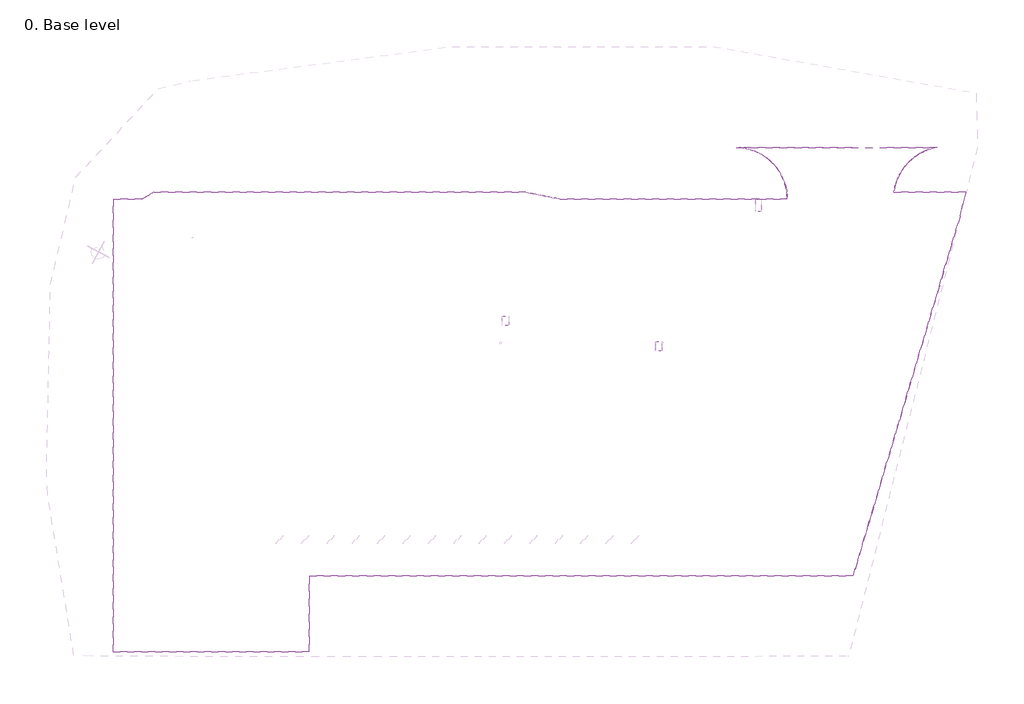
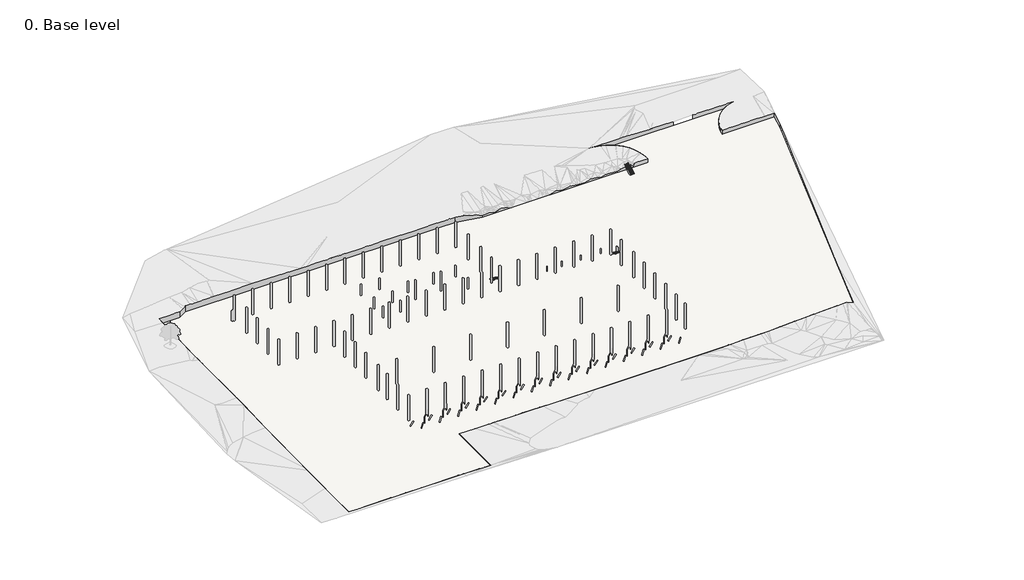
# One storey, part 1 of 3: 3 stair flights, 1 proxy, 1 slab.
"""IFC4 building model written with IfcOpenShell, lengths in millimetres."""

from ifc_helpers import new_model, si_unit, point, frame, frame_2d, origin, place, context, project, spatial, polyline, circle_curve, trimmed, segment, composite_curve, outline, extrude, triangles, transform, mapped, element, save
from components import stair_flight_50mm_tread_13mm_riser_5d985fe5, stair_flight_50mm_tread_13mm_riser_b122b964, stair_flight_50mm_tread_13mm_riser_a6df468b

model = new_model("IFC4")

# Units and contexts
model_context = context("Model", 3, world=origin())
ifc_project = project(units=[si_unit("LENGTHUNIT", "METRE", prefix="MILLI")], contexts=[model_context])

# Site, building, storey
site = spatial("IfcSite", under=ifc_project)
building = spatial("IfcBuilding", under=site)
storey = spatial("IfcBuildingStorey", under=building, Name="0. Base level", Elevation=0.0)

# Proxy
placement = place(None, origin())
element("IfcBuildingElementProxy", 1, Name="Building Element Proxy", at=placement, inside=storey, context=model_context, shape_type="Tessellation", body=[
    triangles([(1819.2808136, 57834.4419434, 42355.0426025), (1819.2808136, 57834.4419434, 43999.9980103), (1818.4890015, 57834.4419434, 42355.0426025), (1818.4890015, 57834.4419434, 43999.9980103), (1792.7232777, 57834.4419434, 42355.0426025), (1792.7232777, 57834.4419434, 43999.9980103), (-4880.4980301, 57834.4419434, 42355.0426025), (-4880.4980301, 57834.4419434, 43999.9980103), (-5161.4151855, 57834.4419434, 42355.0426025), (-5161.4151855, 57834.4419434, 43999.9980103), (-5424.3200684, 57834.4419434, 42355.0426025), (-5424.3200684, 57834.4419434, 43999.9980103), (-5434.8014053, 57834.4419434, 42355.0426025), (-5434.8014053, 57834.4419434, 43999.9980103), (-5669.4126663, 57834.4419434, 42355.0426025), (-5669.4126663, 57834.4419434, 44015.062207), (-13373.8336761, 57834.4419434, 42355.0426025), (-13373.8336761, 57834.4419434, 44268.8699707), (-14578.3136444, 57834.4419434, 42355.0426025), (-14578.3136444, 57834.4419434, 44270.0466431), (-15394.8917084, 57834.4419434, 42355.0426025), (-15394.8917084, 57834.4419434, 44272.2418579), (-15904.9919678, 57834.4419434, 42355.0426025), (-15904.9919678, 57834.4419434, 44283.8458008), (-19234.5771057, 57834.4419434, 42355.0426025), (-19234.5771057, 57834.4419434, 44297.6170532), (-25468.7314636, 57834.4419434, 42355.0426025), (-25468.7314636, 57834.4419434, 44352.2881348), (-24358.0271667, 57757.986145, 42355.0426025), (-24358.0271667, 57757.986145, 44343.6979614), (-23258.7500793, 57581.6480713, 42355.0426025), (-23258.7500793, 57581.6480713, 44336.7123413), (-22179.8601196, 57306.8741455, 42355.0426025), (-22179.8601196, 57306.8741455, 44331.3824341), (-21130.1520996, 56935.8967896, 42355.0426025), (-21130.1520996, 56935.8967896, 44327.7593994), (-20699.110968, 56738.1925781, 42355.0426025), (-20699.110968, 56738.1925781, 44326.9547974), (-20118.1906128, 56471.7437256, 42355.0426025), (-20118.1906128, 56471.7437256, 44330.2104126), (-19152.2228302, 55918.1961182, 42355.0426025), (-19152.2228302, 55918.1961182, 44337.9680786), (-18421.4813873, 55406.7157104, 42355.0426025), (-18421.4813873, 55406.7157104, 44345.8094604), (-18240.1250153, 55279.7746216, 42355.0426025), (-18240.1250153, 55279.7746216, 44341.9306274), (-18217.6449921, 55260.8036865, 42355.0426025), (-18217.6449921, 55260.8036865, 44341.4562378), (-17666.3146912, 54795.4599976, 42355.0426025), (-17666.3146912, 54795.4599976, 44351.1114624), (-17389.3339233, 54561.6789185, 42355.0426025), (-17389.3339233, 54561.6789185, 44356.8459961), (-16823.6045013, 53989.1789795, 42355.0426025), (-16823.6045013, 53989.1789795, 44370.9986206), (-16606.7875031, 53769.7644653, 42355.0426025), (-16606.7875031, 53769.7644653, 44363.1990967), (-15898.8655975, 52910.491333, 42355.0426025), (-15898.8655975, 52910.491333, 44337.3076538), (-15496.743631, 52321.1877686, 42355.0426025), (-15496.743631, 52321.1877686, 44322.2946167), (-15271.3411102, 51990.8590942, 42355.0426025), (-15271.3411102, 51990.8590942, 44288.4315674), (-14729.3288452, 51018.3742676, 42355.0426025), (-14729.3288452, 51018.3742676, 44196.5534546), (-14277.2494629, 50000.9619507, 42355.0426025), (-14277.2494629, 50000.9619507, 44107.8100342), (-13983.0860229, 49135.9821899, 42355.0426025), (-13983.0860229, 49135.9821899, 44038.1538208), (-13968.1497253, 49092.0639404, 42355.0426025), (-13968.1497253, 49092.0639404, 44043.2186279), (-13941.8699341, 49014.7849365, 42355.0426025), (-13941.8699341, 49014.7849365, 44048.1485596), (-13918.7887848, 48946.9146606, 42355.0426025), (-13918.7887848, 48946.9146606, 44027.35448), (-13896.1390045, 48853.3389771, 42355.0426025), (-13896.1390045, 48853.3389771, 43999.9980103), (-13884.8071381, 48806.52323, 42355.0426025), (-13884.8071381, 48806.52323, 43999.9980103), (-13862.7642975, 48715.459021, 42355.0426025), (-13862.7642975, 48715.459021, 43999.9980103), (-13656.8687256, 47864.8318726, 42355.0426025), (-13656.8687256, 47864.8318726, 43999.9980103), (-13493.6263641, 46763.5316528, 42355.0426025), (-13493.6263641, 46763.5316528, 43999.9980103), (-13430.3918518, 45651.9994995, 42355.0426025), (-13430.3918518, 45651.9994995, 43999.9980103), (-17248.7564575, 45651.9994995, 42355.0426025), (-17248.7564575, 45651.9994995, 43999.9980103), (-17916.6389465, 45651.9994995, 42355.0426025), (-17916.6389465, 45651.9994995, 43999.9980103), (-17991.3029938, 45651.9994995, 42355.0426025), (-17991.3029938, 45651.9994995, 43541.9980591), (-18075.9943359, 45651.9994995, 42355.0426025), (-18075.9943359, 45651.9994995, 43248.5648071), (-18152.6280304, 45651.9994995, 42355.0426025), (-18152.6280304, 45651.9994995, 43065.1620483), (-18175.5359344, 45651.9994995, 42355.0426025), (-18175.5359344, 45651.9994995, 42999.998584), (-18231.7673859, 45651.9994995, 42355.0426025), (-18231.7673859, 45651.9994995, 43055.4603149), (-18998.1764191, 45651.9994995, 42355.0426025), (-18998.1764191, 45651.9994995, 43923.1189819), (-19500.7376038, 45651.9994995, 42355.0426025), (-19500.7376038, 45651.9994995, 43915.8915161), (-21873.0532654, 45651.9994995, 42355.0426025), (-21873.0532654, 45651.9994995, 43371.9898315), (-22411.8506104, 45651.9994995, 42355.0426025), (-22411.8506104, 45651.9994995, 43425.8237549), (-23315.3396484, 45651.9994995, 42355.0426025), (-23315.3396484, 45651.9994995, 42999.998584), (-23507.7488342, 45651.9994995, 42355.0426025), (-23507.7488342, 45651.9994995, 42999.998584), (-23610.0751465, 45651.9994995, 42355.0426025), (-23610.0751465, 45651.9994995, 42999.998584), (-27089.6488037, 45651.9994995, 42355.0426025), (-27089.6488037, 45651.9994995, 43455.2219604), (-28731.664856, 45651.9994995, 42355.0426025), (-28731.664856, 45651.9994995, 42999.998584), (-28807.4741821, 45651.9994995, 42355.0426025), (-28807.4741821, 45651.9994995, 42999.998584), (-28981.9077209, 45651.9994995, 42355.0426025), (-28981.9077209, 45651.9994995, 42999.998584), (-31801.3960876, 45651.9994995, 42355.0426025), (-31801.3960876, 45651.9994995, 43467.3793579), (-34172.4676392, 45651.9994995, 42355.0426025), (-34172.4676392, 45651.9994995, 42999.998584), (-36201.8205139, 45651.9994995, 42355.0426025), (-36201.8205139, 45651.9994995, 42952.6247314), (-36272.0999451, 45651.9994995, 42355.0426025), (-36272.0999451, 45651.9994995, 42948.4435913), (-38831.7762634, 45651.9994995, 42355.0426025), (-38831.7762634, 45651.9994995, 43362.9485229), (-41347.141333, 45651.9994995, 42355.0426025), (-41347.141333, 45651.9994995, 42941.7695801), (-41519.4936035, 45651.9994995, 42355.0426025), (-41519.4936035, 45651.9994995, 42922.0638062), (-43152.1427856, 45651.9994995, 42355.0426025), (-43152.1427856, 45651.9994995, 43304.8869507), (-45320.6290283, 45651.9994995, 42355.0426025), (-45320.6290283, 45651.9994995, 42657.3450806), (-45934.2334351, 45651.9994995, 42355.0426025), (-45934.2334351, 45651.9994995, 42500.0011963), (-46435.681897, 45651.9994995, 42355.0426025), (-46435.681897, 45651.9994995, 42500.0011963), (-47382.1590088, 45651.9994995, 42355.0426025), (-47382.1590088, 45651.9994995, 42500.0011963), (-48687.1723755, 45651.9994995, 42355.0426025), (-48687.1723755, 45651.9994995, 42500.0011963), (-51268.7450317, 45651.9994995, 42355.0426025), (-51268.7450317, 45651.9994995, 42500.0011963), (-51422.3077515, 45651.9994995, 42355.0426025), (-51422.3077515, 45651.9994995, 42500.0011963), (-51465.6167358, 45651.9994995, 42355.0426025), (-51465.6167358, 45651.9994995, 42500.0011963), (-51750.515625, 45651.9994995, 42355.0426025), (-51750.515625, 45651.9994995, 42500.0011963), (-52353.9160034, 45651.9994995, 42355.0426025), (-52353.9160034, 45651.9994995, 42500.0011963), (-57807.8528687, 45651.9994995, 42355.0426025), (-57807.8528687, 45651.9994995, 42500.0011963), (-59781.127771, 45651.9994995, 42355.0426025), (-59781.127771, 45651.9994995, 43311.9981445), (-61172.6428345, 45651.9994995, 42355.0426025), (-61172.6428345, 45651.9994995, 43686.1473999), (-61949.6093628, 45651.9994995, 42355.0426025), (-61949.6093628, 45651.9994995, 43309.5564331), (-63065.1831299, 45651.9994995, 42355.0426025), (-63065.1831299, 45651.9994995, 42934.6490845), (-63821.7927612, 45651.9994995, 42355.0426025), (-63821.7927612, 45651.9994995, 42999.998584), (-64911.9634277, 45651.9994995, 42355.0426025), (-64911.9634277, 45651.9994995, 43314.3096313), (-65750.3494629, 45651.9994995, 42355.0426025), (-65750.3494629, 45651.9994995, 43313.4073608), (-66583.9311401, 45651.9994995, 42355.0426025), (-66583.9311401, 45651.9994995, 43312.5050903), (-67100.592627, 45651.9994995, 42355.0426025), (-67100.592627, 45651.9994995, 43381.803186), (-67921.5053101, 45816.7661865, 42355.0426025), (-67921.5053101, 45816.7661865, 43500.0006226), (-68998.7186279, 46032.9762451, 42355.0426025), (-68998.7186279, 46032.9762451, 43883.6469727), (-70591.2446777, 46352.6125488, 42355.0426025), (-70591.2446777, 46352.6125488, 43915.4636353), (-70948.1345215, 46424.2453857, 42355.0426025), (-70948.1345215, 46424.2453857, 43999.9980103), (-72635.6175659, 46762.9409912, 42355.0426025), (-72635.6175659, 46762.9409912, 44488.1217041), (-72771.3581177, 46790.1858398, 42355.0426025), (-72771.3581177, 46790.1858398, 44500.0000488), (-75143.3714722, 47266.27771, 42355.0426025), (-75143.3714722, 47266.27771, 44500.0000488), (-76557.8572266, 47266.27771, 42355.0426025), (-76557.8572266, 47266.27771, 44500.0000488), (-76997.142041, 47266.27771, 42355.0426025), (-76997.142041, 47266.27771, 44500.0000488), (-77538.606665, 47266.27771, 42355.0426025), (-77538.606665, 47266.27771, 44500.0000488), (-77719.8095581, 47266.27771, 42355.0426025), (-77719.8095581, 47266.27771, 44500.0000488), (-77747.1381226, 47266.27771, 42355.0426025), (-77747.1381226, 47266.27771, 44500.0000488), (-77774.7596924, 47266.27771, 42355.0426025), (-77774.7596924, 47266.27771, 44500.0000488), (-78600.4116211, 47266.27771, 42355.0426025), (-78600.4116211, 47266.27771, 44500.0000488), (-80232.3492188, 47266.27771, 42355.0426025), (-80232.3492188, 47266.27771, 44500.0000488), (-81791.5470703, 47266.27771, 42355.0426025), (-81791.5470703, 47266.27771, 44500.0000488), (-89811.1970947, 47266.27771, 42355.0426025), (-89811.1970947, 47266.27771, 44500.0000488), (-90440.6098389, 47266.27771, 42355.0426025), (-90440.6098389, 47266.27771, 44500.0000488), (-99050.3540771, 47266.27771, 42355.0426025), (-99050.3540771, 47266.27771, 44500.0000488), (-102659.7151611, 47266.27771, 42355.0426025), (-102659.7151611, 47266.27771, 44500.0000488), (-103939.3393799, 47266.27771, 42355.0426025), (-103939.3393799, 47266.27771, 44500.0000488), (-105984.1447998, 47266.27771, 42355.0426025), (-105984.1447998, 47266.27771, 44500.0000488), (-110632.568042, 47266.27771, 42355.0426025), (-110632.568042, 47266.27771, 44500.0000488), (-111252.5581055, 47266.27771, 42355.0426025), (-111252.5581055, 47266.27771, 44489.9774048), (-112539.8841797, 47266.27771, 42355.0426025), (-112539.8841797, 47266.27771, 44481.7081421), (-115715.7926514, 47266.27771, 42355.0426025), (-115715.7926514, 47266.27771, 44492.274939), (-116011.1420654, 47266.27771, 42355.0426025), (-116011.1420654, 47266.27771, 44500.0000488), (-116081.7796143, 47266.27771, 42355.0426025), (-116081.7796143, 47266.27771, 44500.0000488), (-116852.7744141, 47266.27771, 42355.0426025), (-116852.7744141, 47266.27771, 44500.0000488), (-120607.0010742, 47266.27771, 42355.0426025), (-120607.0010742, 47266.27771, 44500.0000488), (-121419.8537842, 47266.27771, 42355.0426025), (-121419.8537842, 47266.27771, 44500.0000488), (-123264.9690674, 47266.27771, 42355.0426025), (-123264.9690674, 47266.27771, 44515.2084229), (-125287.6735107, 47266.27771, 42355.0426025), (-125287.6735107, 47266.27771, 44551.9503662), (-140892.4140381, 47266.27771, 42355.0426025), (-140892.4140381, 47266.27771, 44711.656897), (-148138.1578125, 47266.27771, 42355.0426025), (-148138.1578125, 47266.27771, 44761.1934082), (-148520.8228271, 47266.27771, 42355.0426025), (-148520.8228271, 47266.27771, 44762.2910156), (-153680.0241943, 47266.27771, 42355.0426025), (-153680.0241943, 47266.27771, 44792.5589355), (-158732.0600098, 47266.27771, 42355.0426025), (-158732.0600098, 47266.27771, 44655.1022095), (-159739.1985352, 47266.27771, 42355.0426025), (-159739.1985352, 47266.27771, 44651.2698853), (-160539.689209, 47266.27771, 42355.0426025), (-160539.689209, 47266.27771, 44661.3297363), (-161454.2380371, 47266.27771, 42355.0426025), (-161454.2380371, 47266.27771, 44672.8220581), (-161819.3506348, 47266.27771, 42355.0426025), (-161819.3506348, 47266.27771, 44669.2780884), (-162872.8119141, 47266.27771, 42355.0426025), (-162872.8119141, 47266.27771, 44676.2497559), (-163270.8155273, 47036.4917358, 42355.0426025), (-163270.8155273, 47036.4917358, 44665.9573608), (-164166.2027344, 46519.5372437, 42355.0426025), (-164166.2027344, 46519.5372437, 44657.8973877), (-165668.8272949, 45651.9994995, 42355.0426025), (-165668.8272949, 45651.9994995, 44617.3603271)], [[1, 4, 2], [1, 3, 4], [3, 6, 4], [3, 5, 6], [5, 8, 6], [5, 7, 8], [7, 10, 8], [7, 9, 10], [9, 12, 10], [9, 11, 12], [11, 14, 12], [11, 13, 14], [13, 16, 14], [13, 15, 16], [15, 18, 16], [15, 17, 18], [17, 20, 18], [17, 19, 20], [19, 22, 20], [19, 21, 22], [21, 24, 22], [21, 23, 24], [23, 26, 24], [23, 25, 26], [25, 28, 26], [25, 27, 28], [27, 30, 28], [27, 29, 30], [29, 32, 30], [29, 31, 32], [31, 34, 32], [31, 33, 34], [33, 36, 34], [33, 35, 36], [35, 38, 36], [35, 37, 38], [37, 40, 38], [37, 39, 40], [39, 42, 40], [39, 41, 42], [41, 44, 42], [41, 43, 44], [43, 46, 44], [43, 45, 46], [45, 48, 46], [45, 47, 48], [47, 50, 48], [47, 49, 50], [49, 52, 50], [49, 51, 52], [51, 54, 52], [51, 53, 54], [53, 56, 54], [53, 55, 56], [55, 58, 56], [55, 57, 58], [57, 60, 58], [57, 59, 60], [59, 62, 60], [59, 61, 62], [61, 64, 62], [61, 63, 64], [63, 66, 64], [63, 65, 66], [65, 68, 66], [65, 67, 68], [67, 70, 68], [67, 69, 70], [69, 72, 70], [69, 71, 72], [71, 74, 72], [71, 73, 74], [73, 76, 74], [73, 75, 76], [75, 78, 76], [75, 77, 78], [77, 80, 78], [77, 79, 80], [79, 82, 80], [79, 81, 82], [81, 84, 82], [81, 83, 84], [83, 86, 84], [83, 85, 86], [85, 88, 86], [85, 87, 88], [87, 90, 88], [87, 89, 90], [89, 92, 90], [89, 91, 92], [91, 94, 92], [91, 93, 94], [93, 96, 94], [93, 95, 96], [95, 98, 96], [95, 97, 98], [97, 100, 98], [97, 99, 100], [99, 102, 100], [99, 101, 102], [101, 104, 102], [101, 103, 104], [103, 106, 104], [103, 105, 106], [105, 108, 106], [105, 107, 108], [107, 110, 108], [107, 109, 110], [109, 112, 110], [109, 111, 112], [111, 114, 112], [111, 113, 114], [113, 116, 114], [113, 115, 116], [115, 118, 116], [115, 117, 118], [117, 120, 118], [117, 119, 120], [119, 122, 120], [119, 121, 122], [121, 124, 122], [121, 123, 124], [123, 126, 124], [123, 125, 126], [125, 128, 126], [125, 127, 128], [127, 130, 128], [127, 129, 130], [129, 132, 130], [129, 131, 132], [131, 134, 132], [131, 133, 134], [133, 136, 134], [133, 135, 136], [135, 138, 136], [135, 137, 138], [137, 140, 138], [137, 139, 140], [139, 142, 140], [139, 141, 142], [141, 144, 142], [141, 143, 144], [143, 146, 144], [143, 145, 146], [145, 148, 146], [145, 147, 148], [147, 150, 148], [147, 149, 150], [149, 152, 150], [149, 151, 152], [151, 154, 152], [151, 153, 154], [153, 156, 154], [153, 155, 156], [155, 158, 156], [155, 157, 158], [157, 160, 158], [157, 159, 160], [159, 162, 160], [159, 161, 162], [161, 164, 162], [161, 163, 164], [163, 166, 164], [163, 165, 166], [165, 168, 166], [165, 167, 168], [167, 170, 168], [167, 169, 170], [169, 172, 170], [169, 171, 172], [171, 174, 172], [171, 173, 174], [173, 176, 174], [173, 175, 176], [175, 178, 176], [175, 177, 178], [177, 180, 178], [177, 179, 180], [179, 182, 180], [179, 181, 182], [181, 184, 182], [181, 183, 184], [183, 186, 184], [183, 185, 186], [185, 188, 186], [185, 187, 188], [187, 190, 188], [187, 189, 190], [189, 192, 190], [189, 191, 192], [191, 194, 192], [191, 193, 194], [193, 196, 194], [193, 195, 196], [195, 198, 196], [195, 197, 198], [197, 200, 198], [197, 199, 200], [199, 202, 200], [199, 201, 202], [201, 204, 202], [201, 203, 204], [203, 206, 204], [203, 205, 206], [205, 208, 206], [205, 207, 208], [207, 210, 208], [207, 209, 210], [209, 212, 210], [209, 211, 212], [211, 214, 212], [211, 213, 214], [213, 216, 214], [213, 215, 216], [215, 218, 216], [215, 217, 218], [217, 220, 218], [217, 219, 220], [219, 222, 220], [219, 221, 222], [221, 224, 222], [221, 223, 224], [223, 226, 224], [223, 225, 226], [225, 228, 226], [225, 227, 228], [227, 230, 228], [227, 229, 230], [229, 232, 230], [229, 231, 232], [231, 234, 232], [231, 233, 234], [233, 236, 234], [233, 235, 236], [235, 238, 236], [235, 237, 238], [237, 240, 238], [237, 239, 240], [239, 242, 240], [239, 241, 242], [241, 244, 242], [241, 243, 244], [243, 246, 244], [243, 245, 246], [245, 248, 246], [245, 247, 248], [247, 250, 248], [247, 249, 250], [249, 252, 250], [249, 251, 252], [251, 254, 252], [251, 253, 254], [253, 256, 254], [253, 255, 256], [255, 258, 256], [255, 257, 258], [257, 260, 258], [257, 259, 260], [259, 262, 260], [259, 261, 262], [261, 264, 262], [261, 263, 264], [263, 266, 264], [263, 265, 266], [265, 268, 266], [265, 267, 268], [267, 270, 268], [267, 269, 270]], closed=False),
    triangles([(-165668.8272949, 45651.9994995, 42355.0426025), (-165668.8272949, 45651.9994995, 44617.3603271), (-166710.2334961, 45651.9994995, 42355.0426025), (-166710.2334961, 45651.9994995, 44621.8112183), (-169416.1706543, 45651.9994995, 42355.0426025), (-169416.1706543, 45651.9994995, 44637.0242432), (-172437.4001953, 45651.9994995, 42355.0426025), (-172437.4001953, 45651.9994995, 44632.4384766), (-172437.4001953, 43484.4806396, 42355.0426025), (-172437.4001953, 43484.4806396, 44500.0000488), (-172437.4001953, 29970.259021, 42355.0426025), (-172437.4001953, 29970.259021, 44146.8867188), (-172437.4001953, 26467.5100342, 42355.0426025), (-172437.4001953, 26467.5100342, 44081.662793), (-172437.4001953, 25373.8442322, 42355.0426025), (-172437.4001953, 25373.8442322, 44064.7196411), (-172437.4001953, 23266.1752075, 42355.0426025), (-172437.4001953, 23266.1752075, 43999.9980103), (-172437.4001953, 22824.0998657, 42355.0426025), (-172437.4001953, 22824.0998657, 43999.9980103), (-172437.4001953, 22733.2519226, 42355.0426025), (-172437.4001953, 22733.2519226, 43999.9980103), (-172437.4001953, 22265.761853, 42355.0426025), (-172437.4001953, 22265.761853, 43999.9980103), (-172437.4001953, 22068.5018005, 42355.0426025), (-172437.4001953, 22068.5018005, 43999.9980103), (-172437.4001953, 21067.3815125, 42355.0426025), (-172437.4001953, 21067.3815125, 43999.9980103), (-172437.4001953, 20908.6098083, 42355.0426025), (-172437.4001953, 20908.6098083, 43999.9980103), (-172437.4001953, 12443.5253448, 42355.0426025), (-172437.4001953, 12443.5253448, 43999.9980103), (-172437.4001953, 12055.1164948, 42355.0426025), (-172437.4001953, 12055.1164948, 43999.9980103), (-172437.4001953, 6954.251683, 42355.0426025), (-172437.4001953, 6954.251683, 43999.9980103), (-172437.4001953, 6151.6216049, 42355.0426025), (-172437.4001953, 6151.6216049, 43999.9980103), (-172437.4001953, 5701.0845703, 42355.0426025), (-172437.4001953, 5701.0845703, 43999.9980103), (-172437.4001953, 2565.1230789, 42355.0426025), (-172437.4001953, 2565.1230789, 43999.9980103), (-172437.4001953, 2219.8117435, 42355.0426025), (-172437.4001953, 2219.8117435, 43999.9980103), (-172437.4001953, 1859.9765854, 42355.0426025), (-172437.4001953, 1859.9765854, 43999.9980103), (-172437.4001953, -2036.8585213, 42355.0426025), (-172437.4001953, -2036.8585213, 43876.298584), (-172437.4001953, -14339.6607697, 42355.0426025), (-172437.4001953, -14339.6607697, 43500.0006226), (-172437.4001953, -14343.6384338, 42355.0426025), (-172437.4001953, -14343.6384338, 43499.9215576), (-172437.4001953, -14349.7915466, 42355.0426025), (-172437.4001953, -14349.7915466, 43499.8424927), (-172437.4001953, -36755.7146118, 42355.0426025), (-172437.4001953, -36755.7146118, 43185.9593262), (-172437.4001953, -37981.3142212, 42355.0426025), (-172437.4001953, -37981.3142212, 43171.7229858), (-172437.4001953, -47941.6922974, 42355.0426025), (-172437.4001953, -47941.6922974, 42999.998584), (-172437.4001953, -48712.538269, 42355.0426025), (-172437.4001953, -48712.538269, 42999.998584), (-172437.4001953, -49523.5771362, 42355.0426025), (-172437.4001953, -49523.5771362, 42999.998584), (-172437.4001953, -51504.8934082, 42355.0426025), (-172437.4001953, -51504.8934082, 42999.998584), (-172437.4001953, -55508.0676636, 42355.0426025), (-172437.4001953, -55508.0676636, 42999.998584), (-172437.4001953, -58997.4732788, 42355.0426025), (-172437.4001953, -58997.4732788, 42999.998584), (-172437.4001953, -59835.8825684, 42355.0426025), (-172437.4001953, -59835.8825684, 42999.998584), (-172437.4001953, -61246.9871338, 42355.0426025), (-172437.4001953, -61246.9871338, 42999.998584), (-169065.2711426, -61246.9871338, 42355.0426025), (-169065.2711426, -61246.9871338, 42999.998584), (-167378.1555176, -61246.9871338, 42355.0426025), (-167378.1555176, -61246.9871338, 42999.998584), (-158731.0368164, -61246.9871338, 42355.0426025), (-158731.0368164, -61246.9871338, 42999.998584), (-158422.3858887, -61246.9871338, 42355.0426025), (-158422.3858887, -61246.9871338, 42999.998584), (-153766.3166016, -61246.9871338, 42355.0426025), (-153766.3166016, -61246.9871338, 42999.998584), (-153673.354834, -61246.9871338, 42355.0426025), (-153673.354834, -61246.9871338, 42999.998584), (-148611.1708008, -61246.9871338, 42355.0426025), (-148611.1708008, -61246.9871338, 42999.998584), (-148543.9656006, -61246.9871338, 42355.0426025), (-148543.9656006, -61246.9871338, 42999.998584), (-148130.7071045, -61246.9871338, 42355.0426025), (-148130.7071045, -61246.9871338, 42999.998584), (-136567.4594238, -61246.9871338, 42355.0426025), (-136567.4594238, -61246.9871338, 42999.998584), (-135808.6964355, -61246.9871338, 42355.0426025), (-135808.6964355, -61246.9871338, 42999.998584), (-135113.4365479, -61246.9871338, 42355.0426025), (-135113.4365479, -61246.9871338, 42999.998584), (-134764.3043701, -61246.9871338, 42355.0426025), (-134764.3043701, -61246.9871338, 42999.998584), (-129903.9126709, -61246.9871338, 42355.0426025), (-129903.9126709, -61246.9871338, 42894.0143555), (-128958.8354736, -61246.9871338, 42355.0426025), (-128958.8354736, -61246.9871338, 42872.3366089), (-128092.4046387, -61246.9871338, 42355.0426025), (-128092.4046387, -61246.9871338, 42854.3051514), (-126195.9157471, -61246.9871338, 42355.0426025), (-126195.9157471, -61246.9871338, 42816.1493408), (-126195.9157471, -60918.0351196, 42355.0426025), (-126195.9157471, -60918.0351196, 42813.8657593), (-126195.9157471, -60698.1555176, 42355.0426025), (-126195.9157471, -60698.1555176, 42813.2192871), (-126195.9157471, -60371.794043, 42355.0426025), (-126195.9157471, -60371.794043, 42815.7493652), (-126195.9157471, -43321.7417358, 42355.0426025), (-126195.9157471, -43321.7417358, 42866.2765137), (-120921.4935059, -43321.7417358, 42355.0426025), (-120921.4935059, -43321.7417358, 42751.2602783), (-116533.4171631, -43321.7417358, 42355.0426025), (-116533.4171631, -43321.7417358, 42739.5168091), (-115451.5669189, -43321.7417358, 42355.0426025), (-115451.5669189, -43321.7417358, 42723.6852173), (-115213.2279785, -43321.7417358, 42355.0426025), (-115213.2279785, -43321.7417358, 42720.6760986), (-114745.8611572, -43321.7417358, 42355.0426025), (-114745.8611572, -43321.7417358, 42716.9553955), (-113519.9824951, -43321.7417358, 42355.0426025), (-113519.9824951, -43321.7417358, 42708.4535889), (-107518.7302002, -43321.7417358, 42355.0426025), (-107518.7302002, -43321.7417358, 42692.1662109), (-105389.8740967, -43321.7417358, 42355.0426025), (-105389.8740967, -43321.7417358, 42712.9928467), (-99822.4185791, -43321.7417358, 42355.0426025), (-99822.4185791, -43321.7417358, 42672.9301758), (-98769.2084473, -43321.7417358, 42355.0426025), (-98769.2084473, -43321.7417358, 42668.1304688), (-91980.004248, -43321.7417358, 42355.0426025), (-91980.004248, -43321.7417358, 42594.2187012), (-91355.8469971, -43321.7417358, 42355.0426025), (-91355.8469971, -43321.7417358, 42590.8886719), (-91009.5146484, -43321.7417358, 42355.0426025), (-91009.5146484, -43321.7417358, 42587.7818848), (-88180.3478027, -43321.7417358, 42355.0426025), (-88180.3478027, -43321.7417358, 42569.7318237), (-86355.8545166, -43321.7417358, 42355.0426025), (-86355.8545166, -43321.7417358, 42559.6952271), (-85011.2296143, -43321.7417358, 42355.0426025), (-85011.2296143, -43321.7417358, 42556.509375), (-82003.3666992, -43321.7417358, 42355.0426025), (-82003.3666992, -43321.7417358, 42500.0011963), (-79252.3997314, -43321.7417358, 42355.0426025), (-79252.3997314, -43321.7417358, 42500.0011963), (-76828.5662842, -43321.7417358, 42355.0426025), (-76828.5662842, -43321.7417358, 42500.0011963), (-76074.947168, -43321.7417358, 42355.0426025), (-76074.947168, -43321.7417358, 42500.0011963), (-73621.873645, -43321.7417358, 42355.0426025), (-73621.873645, -43321.7417358, 42500.0011963), (-63029.9620239, -43321.7417358, 42355.0426025), (-63029.9620239, -43321.7417358, 42500.0011963), (-61306.4951294, -43321.7417358, 42355.0426025), (-61306.4951294, -43321.7417358, 42500.0011963), (-61260.3212036, -43321.7417358, 42355.0426025), (-61260.3212036, -43321.7417358, 42500.0011963), (-55979.2342529, -43321.7417358, 42355.0426025), (-55979.2342529, -43321.7417358, 42500.0011963), (-51065.5109253, -43321.7417358, 42355.0426025), (-51065.5109253, -43321.7417358, 42500.0011963), (-48148.9633667, -43321.7417358, 42355.0426025), (-48148.9633667, -43321.7417358, 42500.0011963), (-46639.8368774, -43321.7417358, 42355.0426025), (-46639.8368774, -43321.7417358, 42500.0011963), (-40954.4350708, -43321.7417358, 42355.0426025), (-40954.4350708, -43321.7417358, 42500.0011963), (-38399.8909973, -43321.7417358, 42355.0426025), (-38399.8909973, -43321.7417358, 42599.5672119), (-38051.7541077, -43321.7417358, 42355.0426025), (-38051.7541077, -43321.7417358, 42610.854895), (-33803.1785522, -43321.7417358, 42355.0426025), (-33803.1785522, -43321.7417358, 42759.3528076), (-31385.2935791, -43321.7417358, 42355.0426025), (-31385.2935791, -43321.7417358, 42754.7623901), (-28843.3789673, -43321.7417358, 42355.0426025), (-28843.3789673, -43321.7417358, 42755.5669922), (-28029.1054138, -43321.7417358, 42355.0426025), (-28029.1054138, -43321.7417358, 42761.8177734), (-26972.228064, -43321.7417358, 42355.0426025), (-26972.228064, -43321.7417358, 42786.2860474), (-25876.0531128, -43321.7417358, 42355.0426025), (-25876.0531128, -43321.7417358, 42824.5348755), (-25435.3567566, -43321.7417358, 42355.0426025), (-25435.3567566, -43321.7417358, 42834.4738037), (-21782.2216003, -43321.7417358, 42355.0426025), (-21782.2216003, -43321.7417358, 42999.998584), (-17025.4096252, -43321.7417358, 42355.0426025), (-17025.4096252, -43321.7417358, 43247.0625732), (-13191.9401276, -43321.7417358, 42355.0426025), (-13191.9401276, -43321.7417358, 43389.2027344), (-10952.8442413, -43321.7417358, 42355.0426025), (-10952.8442413, -43321.7417358, 43500.0006226), (-10657.2541443, -43321.7417358, 42355.0426025), (-10657.2541443, -43321.7417358, 43500.0006226), (-8967.5706528, -43321.7417358, 42355.0426025), (-8967.5706528, -43321.7417358, 43568.0894897), (-3152.4854828, -43321.7417358, 42355.0426025), (-3152.4854828, -43321.7417358, 43772.2770264), (-3043.3404007, -43321.7417358, 42355.0426025), (-3043.3404007, -43321.7417358, 43772.3328369), (-1436.6708828, -43321.7417358, 42355.0426025), (-1436.6708828, -43321.7417358, 43832.552417), (-34.8357348, -43321.7417358, 42355.0426025), (-34.8357348, -43321.7417358, 43862.4529175), (194.5065868, -43321.7417358, 42355.0426025), (194.5065868, -43321.7417358, 43616.7144287), (2031.8245262, -43321.7417358, 42355.0426025), (2031.8245262, -43321.7417358, 43072.1988281), (7574.9649582, -24672.3661194, 42355.0426025), (7574.9649582, -24672.3661194, 42785.6163208), (27282.2370483, 41630.9007568, 42355.0426025), (27282.2370483, 41630.9007568, 43731.5864868), (28579.0462646, 47247.9997559, 42355.0426025), (28579.0462646, 47247.9997559, 43831.9431519), (25479.5982422, 47247.9997559, 42355.0426025), (25479.5982422, 47247.9997559, 43999.9980103), (24565.6935608, 47247.9997559, 42355.0426025), (24565.6935608, 47247.9997559, 43999.9980103), (23416.0242004, 47247.9997559, 42355.0426025), (23416.0242004, 47247.9997559, 43999.9980103), (23194.9237427, 47247.9997559, 42355.0426025), (23194.9237427, 47247.9997559, 43999.9980103), (21774.6964783, 47247.9997559, 42355.0426025), (21774.6964783, 47247.9997559, 43999.9980103), (20774.5970581, 47247.9997559, 42355.0426025), (20774.5970581, 47247.9997559, 43999.9980103), (20473.3410278, 47247.9997559, 42355.0426025), (20473.3410278, 47247.9997559, 43999.9980103), (19009.2094666, 47247.9997559, 42355.0426025), (19009.2094666, 47247.9997559, 43999.9980103), (17863.4305664, 47247.9997559, 42355.0426025), (17863.4305664, 47247.9997559, 43999.9980103), (17012.8999237, 47247.9997559, 42355.0426025), (17012.8999237, 47247.9997559, 43999.9980103), (15616.2909851, 47247.9997559, 42355.0426025), (15616.2909851, 47247.9997559, 43999.9980103), (15099.1225525, 47247.9997559, 42355.0426025), (15099.1225525, 47247.9997559, 43999.9980103), (14049.9912415, 47247.9997559, 42355.0426025), (14049.9912415, 47247.9997559, 43999.9980103), (13156.9469147, 47247.9997559, 42355.0426025), (13156.9469147, 47247.9997559, 43999.9980103), (11654.3700256, 47247.9997559, 42355.0426025), (11654.3700256, 47247.9997559, 43999.9980103), (11833.0056335, 48283.108667, 42355.0426025), (11833.0056335, 48283.108667, 43999.9980103), (11921.0467712, 48619.3207031, 42355.0426025), (11921.0467712, 48619.3207031, 43999.9980103), (12099.0975311, 49299.2605957, 42355.0426025), (12099.0975311, 49299.2605957, 43999.9980103), (12269.2883057, 49778.3522827, 42355.0426025), (12269.2883057, 49778.3522827, 43999.9980103), (12450.7156036, 50289.0745972, 42355.0426025), (12450.7156036, 50289.0745972, 43999.9980103), (12885.3065186, 51245.3650635, 42355.0426025), (12885.3065186, 51245.3650635, 43999.9980103), (13063.7142334, 51562.9921875, 42355.0426025), (13063.7142334, 51562.9921875, 43999.9980103), (13399.71698, 52161.1975342, 42355.0426025), (13399.71698, 52161.1975342, 43999.9980103), (13701.8473755, 52605.6866821, 42355.0426025), (13701.8473755, 52605.6866821, 43999.9980103), (13990.2123322, 53029.9212524, 42355.0426025), (13990.2123322, 53029.9212524, 43999.9980103), (14652.5079529, 53845.2296265, 42355.0426025), (14652.5079529, 53845.2296265, 43999.9980103), (15273.9560669, 54489.4228638, 42355.0426025), (15273.9560669, 54489.4228638, 43999.9980103), (15381.7959961, 54601.2067383, 42355.0426025), (15381.7959961, 54601.2067383, 43999.9980103), (16063.4195068, 55196.8075928, 42355.0426025), (16063.4195068, 55196.8075928, 43999.9980103), (16172.7837616, 55292.3692017, 42355.0426025), (16172.7837616, 55292.3692017, 43999.9980103), (16503.5565948, 55535.0288086, 42355.0426025), (16503.5565948, 55535.0288086, 43999.9980103), (16803.3801544, 55754.9781738, 42355.0426025), (16803.3801544, 55754.9781738, 43999.9980103), (17019.7297394, 55913.6940674, 42355.0426025), (17019.7297394, 55913.6940674, 43999.9980103), (17916.487793, 56460.6792847, 42355.0426025), (17916.487793, 56460.6792847, 43999.9980103), (18277.794809, 56640.8078247, 42355.0426025), (18277.794809, 56640.8078247, 43999.9980103), (18549.9828461, 56776.5065186, 42355.0426025), (18549.9828461, 56776.5065186, 43999.9980103), (18856.5490173, 56929.3483521, 42355.0426025), (18856.5490173, 56929.3483521, 43999.9980103), (19300.7870178, 57105.3748169, 42355.0426025), (19300.7870178, 57105.3748169, 43999.9980103), (19833.0894104, 57316.3014771, 42355.0426025), (19833.0894104, 57316.3014771, 43999.9980103), (20839.0233582, 57618.7295288, 42355.0426025), (20839.0233582, 57618.7295288, 43999.9980103), (21867.0466553, 57834.4419434, 42355.0426025), (21867.0466553, 57834.4419434, 43999.9980103), (19558.8712646, 57834.4419434, 42355.0426025), (19558.8712646, 57834.4419434, 43999.9980103), (18974.4162415, 57834.4419434, 42355.0426025), (18974.4162415, 57834.4419434, 43999.9980103), (11305.3506317, 57834.4419434, 42355.0426025), (11305.3506317, 57834.4419434, 43999.9980103), (9750.6065781, 57834.4419434, 42355.0426025), (9750.6065781, 57834.4419434, 43999.9980103), (9155.6254532, 57834.4419434, 42355.0426025), (9155.6254532, 57834.4419434, 43999.9980103), (8558.8903656, 57834.4419434, 42355.0426025), (8558.8903656, 57834.4419434, 43999.9980103), (8282.5990906, 57834.4419434, 42355.0426025), (8282.5990906, 57834.4419434, 43999.9980103)], [[1, 4, 2], [1, 3, 4], [3, 6, 4], [3, 5, 6], [5, 8, 6], [5, 7, 8], [7, 10, 8], [7, 9, 10], [9, 12, 10], [9, 11, 12], [11, 14, 12], [11, 13, 14], [13, 16, 14], [13, 15, 16], [15, 18, 16], [15, 17, 18], [17, 20, 18], [17, 19, 20], [19, 22, 20], [19, 21, 22], [21, 24, 22], [21, 23, 24], [23, 26, 24], [23, 25, 26], [25, 28, 26], [25, 27, 28], [27, 30, 28], [27, 29, 30], [29, 32, 30], [29, 31, 32], [31, 34, 32], [31, 33, 34], [33, 36, 34], [33, 35, 36], [35, 38, 36], [35, 37, 38], [37, 40, 38], [37, 39, 40], [39, 42, 40], [39, 41, 42], [41, 44, 42], [41, 43, 44], [43, 46, 44], [43, 45, 46], [45, 48, 46], [45, 47, 48], [47, 50, 48], [47, 49, 50], [49, 52, 50], [49, 51, 52], [51, 54, 52], [51, 53, 54], [53, 56, 54], [53, 55, 56], [55, 58, 56], [55, 57, 58], [57, 60, 58], [57, 59, 60], [59, 62, 60], [59, 61, 62], [61, 64, 62], [61, 63, 64], [63, 66, 64], [63, 65, 66], [65, 68, 66], [65, 67, 68], [67, 70, 68], [67, 69, 70], [69, 72, 70], [69, 71, 72], [71, 74, 72], [71, 73, 74], [73, 76, 74], [73, 75, 76], [75, 78, 76], [75, 77, 78], [77, 80, 78], [77, 79, 80], [79, 82, 80], [79, 81, 82], [81, 84, 82], [81, 83, 84], [83, 86, 84], [83, 85, 86], [85, 88, 86], [85, 87, 88], [87, 90, 88], [87, 89, 90], [89, 92, 90], [89, 91, 92], [91, 94, 92], [91, 93, 94], [93, 96, 94], [93, 95, 96], [95, 98, 96], [95, 97, 98], [97, 100, 98], [97, 99, 100], [99, 102, 100], [99, 101, 102], [101, 104, 102], [101, 103, 104], [103, 106, 104], [103, 105, 106], [105, 108, 106], [105, 107, 108], [107, 110, 108], [107, 109, 110], [109, 112, 110], [109, 111, 112], [111, 114, 112], [111, 113, 114], [113, 116, 114], [113, 115, 116], [115, 118, 116], [115, 117, 118], [117, 120, 118], [117, 119, 120], [119, 122, 120], [119, 121, 122], [121, 124, 122], [121, 123, 124], [123, 126, 124], [123, 125, 126], [125, 128, 126], [125, 127, 128], [127, 130, 128], [127, 129, 130], [129, 132, 130], [129, 131, 132], [131, 134, 132], [131, 133, 134], [133, 136, 134], [133, 135, 136], [135, 138, 136], [135, 137, 138], [137, 140, 138], [137, 139, 140], [139, 142, 140], [139, 141, 142], [141, 144, 142], [141, 143, 144], [143, 146, 144], [143, 145, 146], [145, 148, 146], [145, 147, 148], [147, 150, 148], [147, 149, 150], [149, 152, 150], [149, 151, 152], [151, 154, 152], [151, 153, 154], [153, 156, 154], [153, 155, 156], [155, 158, 156], [155, 157, 158], [157, 160, 158], [157, 159, 160], [159, 162, 160], [159, 161, 162], [161, 164, 162], [161, 163, 164], [163, 166, 164], [163, 165, 166], [165, 168, 166], [165, 167, 168], [167, 170, 168], [167, 169, 170], [169, 172, 170], [169, 171, 172], [171, 174, 172], [171, 173, 174], [173, 176, 174], [173, 175, 176], [175, 178, 176], [175, 177, 178], [177, 180, 178], [177, 179, 180], [179, 182, 180], [179, 181, 182], [181, 184, 182], [181, 183, 184], [183, 186, 184], [183, 185, 186], [185, 188, 186], [185, 187, 188], [187, 190, 188], [187, 189, 190], [189, 192, 190], [189, 191, 192], [191, 194, 192], [191, 193, 194], [193, 196, 194], [193, 195, 196], [195, 198, 196], [195, 197, 198], [197, 200, 198], [197, 199, 200], [199, 202, 200], [199, 201, 202], [201, 204, 202], [201, 203, 204], [203, 206, 204], [203, 205, 206], [205, 208, 206], [205, 207, 208], [207, 210, 208], [207, 209, 210], [209, 212, 210], [209, 211, 212], [211, 214, 212], [211, 213, 214], [213, 216, 214], [213, 215, 216], [215, 218, 216], [215, 217, 218], [217, 220, 218], [217, 219, 220], [219, 222, 220], [219, 221, 222], [221, 224, 222], [221, 223, 224], [223, 226, 224], [223, 225, 226], [225, 228, 226], [225, 227, 228], [227, 230, 228], [227, 229, 230], [229, 232, 230], [229, 231, 232], [231, 234, 232], [231, 233, 234], [233, 236, 234], [233, 235, 236], [235, 238, 236], [235, 237, 238], [237, 240, 238], [237, 239, 240], [239, 242, 240], [239, 241, 242], [241, 244, 242], [241, 243, 244], [243, 246, 244], [243, 245, 246], [245, 248, 246], [245, 247, 248], [247, 250, 248], [247, 249, 250], [249, 252, 250], [249, 251, 252], [251, 254, 252], [251, 253, 254], [253, 256, 254], [253, 255, 256], [255, 258, 256], [255, 257, 258], [257, 260, 258], [257, 259, 260], [259, 262, 260], [259, 261, 262], [261, 264, 262], [261, 263, 264], [263, 266, 264], [263, 265, 266], [265, 268, 266], [265, 267, 268], [267, 270, 268], [267, 269, 270], [269, 272, 270], [269, 271, 272], [271, 274, 272], [271, 273, 274], [273, 276, 274], [273, 275, 276], [275, 278, 276], [275, 277, 278], [277, 280, 278], [277, 279, 280], [279, 282, 280], [279, 281, 282], [281, 284, 282], [281, 283, 284], [283, 286, 284], [283, 285, 286], [285, 288, 286], [285, 287, 288], [287, 290, 288], [287, 289, 290], [289, 292, 290], [289, 291, 292], [291, 294, 292], [291, 293, 294], [293, 296, 294], [293, 295, 296], [295, 298, 296], [295, 297, 298], [297, 300, 298], [297, 299, 300], [299, 302, 300], [299, 301, 302], [301, 304, 302], [301, 303, 304], [303, 306, 304], [303, 305, 306], [305, 308, 306], [305, 307, 308], [307, 310, 308], [307, 309, 310], [309, 312, 310], [309, 311, 312], [311, 314, 312], [311, 313, 314], [313, 316, 314], [313, 315, 316], [315, 318, 316], [315, 317, 318]], closed=False),
    triangles([(-165668.8272949, 45651.9994995, 42355.0426025), (-172437.4001953, 45651.9994995, 42355.0426025), (-172437.4001953, -61246.9871338, 42355.0426025), (-126195.9157471, -61246.9871338, 42355.0426025), (-126195.9157471, -43321.7417358, 42355.0426025), (2031.8245262, -43321.7417358, 42355.0426025), (27282.2370483, 41630.9007568, 42355.0426025), (28579.0462646, 47247.9997559, 42355.0426025), (11654.3700256, 47247.9997559, 42355.0426025), (11833.0056335, 48283.108667, 42355.0426025), (12099.0975311, 49299.2605957, 42355.0426025), (12450.7156036, 50289.0745972, 42355.0426025), (12885.3065186, 51245.3650635, 42355.0426025), (13399.71698, 52161.1975342, 42355.0426025), (13990.2123322, 53029.9212524, 42355.0426025), (14652.5079529, 53845.2296265, 42355.0426025), (15381.7959961, 54601.2067383, 42355.0426025), (16172.7837616, 55292.3692017, 42355.0426025), (17019.7297394, 55913.6940674, 42355.0426025), (17916.487793, 56460.6792847, 42355.0426025), (18856.5490173, 56929.3483521, 42355.0426025), (19833.0894104, 57316.3014771, 42355.0426025), (20839.0233582, 57618.7295288, 42355.0426025), (21867.0466553, 57834.4419434, 42355.0426025), (-25468.7314636, 57834.4419434, 42355.0426025), (-24358.0271667, 57757.986145, 42355.0426025), (-23258.7500793, 57581.6480713, 42355.0426025), (-22179.8601196, 57306.8741455, 42355.0426025), (-21130.1520996, 56935.8967896, 42355.0426025), (-20118.1906128, 56471.7437256, 42355.0426025), (-19152.2228302, 55918.1961182, 42355.0426025), (-18240.1250153, 55279.7746216, 42355.0426025), (-17389.3339233, 54561.6789185, 42355.0426025), (-16606.7875031, 53769.7644653, 42355.0426025), (-15898.8655975, 52910.491333, 42355.0426025), (-15271.3411102, 51990.8590942, 42355.0426025), (-14729.3288452, 51018.3742676, 42355.0426025), (-14277.2494629, 50000.9619507, 42355.0426025), (-13918.7887848, 48946.9146606, 42355.0426025), (-13656.8687256, 47864.8318726, 42355.0426025), (-13493.6263641, 46763.5316528, 42355.0426025), (-13430.3918518, 45651.9994995, 42355.0426025), (-67100.592627, 45651.9994995, 42355.0426025), (-75143.3714722, 47266.27771, 42355.0426025), (-162872.8119141, 47266.27771, 42355.0426025)], [[1, 3, 5], [1, 2, 3], [5, 45, 1], [5, 3, 4], [5, 43, 44], [5, 44, 45], [37, 38, 12], [36, 37, 13], [6, 43, 5], [28, 29, 22], [26, 27, 24], [25, 26, 24], [28, 23, 27], [34, 35, 16], [33, 34, 17], [31, 32, 19], [30, 31, 20], [33, 18, 32], [29, 30, 21], [36, 14, 35], [41, 42, 9], [6, 42, 43], [9, 40, 41], [39, 40, 10], [9, 42, 6], [9, 7, 8], [7, 9, 6], [12, 38, 11], [10, 11, 39], [9, 10, 40], [12, 13, 37], [15, 35, 14], [14, 36, 13], [18, 33, 17], [17, 34, 16], [16, 35, 15], [21, 30, 20], [20, 31, 19], [23, 24, 27], [23, 28, 22], [22, 29, 21], [19, 32, 18], [39, 11, 38]], closed=False),
])

# Slab
element("IfcSlab", 2, ObjectType="Pad 1", at=placement, inside=storey, context=model_context, shape_type="SweptSolid", body=[
    extrude(outline(composite_curve([segment(polyline([(-165668.8272131, 45651.9991708), (-162872.8146942, 47266.2777512), (-75143.3700908, 47266.2777512), (-67100.5917799, 45651.9991708), (-13430.3914679, 45651.9991708)]), True, "CONTINUOUS"), segment(trimmed(circle_curve(frame_2d((-25759.2363148, 45508.1808406)), 12329.6836525), [point((-13430.3914679, 45651.9991708))], [point((-25468.730438, 57834.4416405))], True, "CARTESIAN"), True, "CONTINUOUS"), segment(polyline([(-25468.730438, 57834.4416405), (21867.0465301, 57834.4416405)]), True, "CONTINUOUS"), segment(trimmed(circle_curve(frame_2d((23882.7397827, 45670.6396164)), 12329.6836525), [point((21867.0465301, 57834.4416405))], [point((11654.3696621, 47247.9991708))], True, "CARTESIAN"), True, "CONTINUOUS"), segment(polyline([(11654.3696621, 47247.9991708), (28579.0455331, 47247.9991708), (27282.2367135, 41630.9030551), (2031.824506, -43321.740321), (-126195.9155077, -43321.740321), (-126195.9155077, -61246.9875007), (-172437.4088827, -61246.9875007), (-172437.4088827, 45651.9991708), (-165668.8272131, 45651.9991708)]), True, "CONTINUOUS")], self_intersect=False)), frame((0.0, 0.0, 42355.2), z_axis=(0.0, 0.0, 1.0), x_axis=(1.0, 0.0, 0.0)), (0.0, 0.0, 1.0), 304.8),
])

# Stair flights
stair_flight_50mm_tread_13mm_riser_shape = stair_flight_50mm_tread_13mm_riser_5d985fe5(model_context)
element("IfcStairFlight", 3, ObjectType="50mm Tread 13mm Riser", at=placement, inside=storey, context=model_context, shape_type="MappedRepresentation", body=[
    mapped(stair_flight_50mm_tread_13mm_riser_shape, transform((0.0, 0.0, 0.0), x_axis=(1.0, 0.0, 0.0), y_axis=(0.0, 1.0, 0.0), z_axis=(0.0, 0.0, 1.0))),
])
stair_flight_50mm_tread_13mm_riser_2_shape = stair_flight_50mm_tread_13mm_riser_b122b964(model_context)
element("IfcStairFlight", 4, ObjectType="50mm Tread 13mm Riser", at=placement, inside=storey, context=model_context, shape_type="MappedRepresentation", body=[
    mapped(stair_flight_50mm_tread_13mm_riser_2_shape, transform((0.0, 0.0, 0.0), x_axis=(1.0, 0.0, 0.0), y_axis=(0.0, 1.0, 0.0), z_axis=(0.0, 0.0, 1.0))),
])
stair_flight_50mm_tread_13mm_riser_3_shape = stair_flight_50mm_tread_13mm_riser_a6df468b(model_context)
element("IfcStairFlight", 5, ObjectType="50mm Tread 13mm Riser", at=placement, inside=storey, context=model_context, shape_type="MappedRepresentation", body=[
    mapped(stair_flight_50mm_tread_13mm_riser_3_shape, transform((0.0, 0.0, 0.0), x_axis=(1.0, 0.0, 0.0), y_axis=(0.0, 1.0, 0.0), z_axis=(0.0, 0.0, 1.0))),
])

save(model, "model.ifc")
